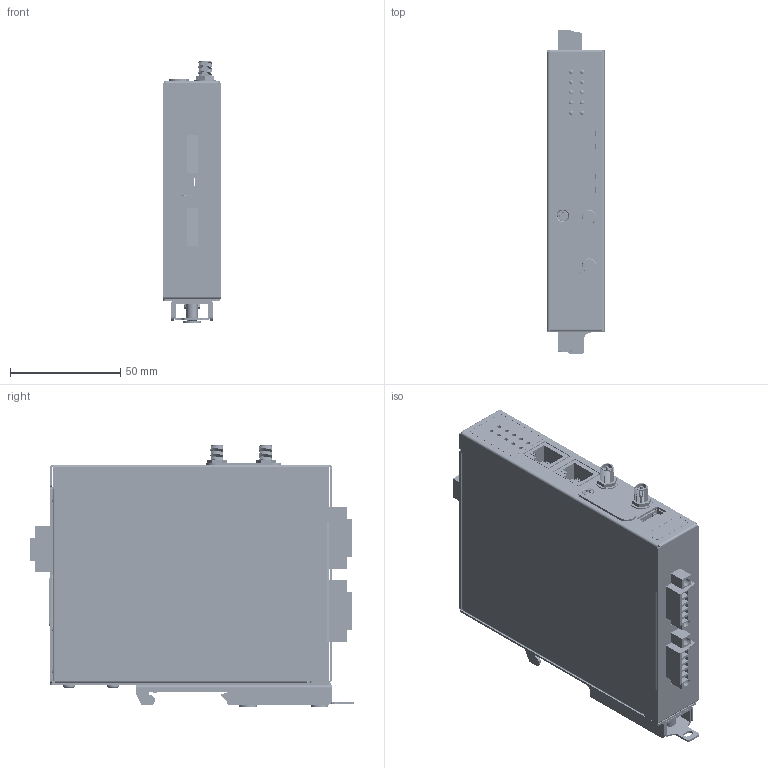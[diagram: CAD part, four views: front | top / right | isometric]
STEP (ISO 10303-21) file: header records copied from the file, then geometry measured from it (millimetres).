
FILE_DESCRIPTION((''),'2;1');
FILE_NAME('00-VPN_CLOUD_GATEWAY_ASM','2019-07-09T11:35:08',('ChrisYC_Huang'),('PTC'),'CREO PARAMETRIC BY PTC INC, 2018020','CREO PARAMETRIC BY PTC INC, 2018020','');
FILE_SCHEMA(('AUTOMOTIVE_DESIGN { 1 0 10303 214 1 1 1 1 }'));
Products named in the file (286): 1126005081200_RJ45_E5TAB_8P8C; 1126010004000_USBX1_UR-TYPEA; 1106620102211_2LED; 1111210501210-ECH350RM_5P; 1111000000800_ECH350RM_3P; 1126101041211_HR_DIP90M_1X4; 1109000040700; 1126801021113-MINI_PCIE-AS0B22X; PCB-MINIPCIE; 1402310010112-SMD_NUT-M2P5X4P4; STP_900_TUTTO; 1005_R_TUTTO; 3216-16_TAN-A_TUTTO; STP_400_TUTTO; 3216_C_TUTTO; BLM21_TUTTO; EXTRUDE1_4_; FILLET5; FILLET3; EXTRUDE4; EXTRUDE1_2_; CUT-EXTRUDE1; UFL_TUTTO_ASM; 1005_C_TUTTO; ESTRUSIONE-ESTRUSIONE1_4_; ESTRUSIONE-ESTRUSIONE1_6_; ESTRUSIONE-ESTRUSIONE1_12_; ESTRUSIONE-ESTRUSIONE1_1_; ESTRUSIONE-ESTRUSIONE1_10_; ESTRUSIONE-ESTRUSIONE1_15_; ESTRUSIONE-ESTRUSIONE1_11_; ESTRUSIONE-ESTRUSIONE1_5_; ESTRUSIONE-ESTRUSIONE1_7_; ESTRUSIONE-ESTRUSIONE1_16_; ESTRUSIONE-ESTRUSIONE1_26_; ESTRUSIONE-ESTRUSIONE1_3_; ESTRUSIONE-ESTRUSIONE1_22_; ESTRUSIONE-ESTRUSIONE1_13_; ESTRUSIONE-ESTRUSIONE1_25_; ESTRUSIONE-ESTRUSIONE1_24_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
Assembly tree (377 placements, depth 8):
  00-VPN_CLOUD_GATEWAY_ASM
    01-PCB-VPN-C-GATEWAY_ASM
      1126005081200_RJ45_E5TAB_8P8C  x2
      1126010004000_USBX1_UR-TYPEA
      1106620102211_2LED  x5
      1111210501210-ECH350RM_5P  x2
      1111000000800_ECH350RM_3P
      1126101041211_HR_DIP90M_1X4
      1109000040700  x2
      1126801021113-MINI_PCIE-H4P9_ASM
        1126801021113-MINI_PCIE-AS0B22X
        PCB-MINIPCIE
        1402310010112-SMD_NUT-M2P5X4P4  x2
        MPCI_ASM
          MPCI_TUTTO_ASM
            STP_900_TUTTO  x21
            1005_R_TUTTO  x19
            3216-16_TAN-A_TUTTO  x4
            STP_400_TUTTO  x6
            3216_C_TUTTO
            BLM21_TUTTO
            UFL_TUTTO_ASM  x2
              EXTRUDE1_4_
              FILLET5
              FILLET3
              EXTRUDE4
              EXTRUDE1_2_
              CUT-EXTRUDE1
            1005_C_TUTTO  x3
            PCIE_CONN_TOP_TUTTO_ASM  x2
              ESTRUSIONE-ESTRUSIONE1_4_
              ESTRUSIONE-ESTRUSIONE1_6_
              ESTRUSIONE-ESTRUSIONE1_12_
              ESTRUSIONE-ESTRUSIONE1_1_
              ESTRUSIONE-ESTRUSIONE1_10_
              ESTRUSIONE-ESTRUSIONE1_15_
              ESTRUSIONE-ESTRUSIONE1_11_
              ESTRUSIONE-ESTRUSIONE1_5_
              ESTRUSIONE-ESTRUSIONE1_7_
              ESTRUSIONE-ESTRUSIONE1_16_
              ESTRUSIONE-ESTRUSIONE1_26_
              ESTRUSIONE-ESTRUSIONE1_3_
              ESTRUSIONE-ESTRUSIONE1_22_
              ESTRUSIONE-ESTRUSIONE1_13_
              ESTRUSIONE-ESTRUSIONE1_25_
              ESTRUSIONE-ESTRUSIONE1_24_
              ESTRUSIONE-ESTRUSIONE1_14_
              ESTRUSIONE-ESTRUSIONE1_2-112427
              ESTRUSIONE-ESTRUSIONE1_21_
              ESTRUSIONE-ESTRUSIONE1_8_
              ESTRUSIONE-ESTRUSIONE1_23_
              ESTRUSIONE-ESTRUSIONE1_19_
              ESTRUSIONE-ESTRUSIONE1_17_
              ESTRUSIONE-ESTRUSIONE1_20_
              ESTRUSIONE-ESTRUSIONE1_9_
              ESTRUSIONE-ESTRUSIONE1_18_
            STDK_SPM4020_TUTTO_ASM
              RIVOLUZIONE6
              RIVOLUZIONE5
              ESTRUSIONE-ESTRUSIONE3
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Bounding box: 26 x 147 x 118.8 mm (x, y, z)
Volume: 117844.7 mm3; surface area: 201174.7 mm2
Topology: 423 solids, 432 shells, 8617 faces, 21376 edges, 13997 vertices
Faces by surface type: plane 5484, cylinder 1802, extrusion 578, bspline 377, torus 177, cone 145, sphere 48, revolution 6
Entity records: 293839 total; most frequent: CARTESIAN_POINT 68214, ORIENTED_EDGE 30534, DIRECTION 29225, EDGE_CURVE 15275, PRESENTATION_STYLE_ASSIGNMENT 15083, STYLED_ITEM 12000, VECTOR 11875, CURVE_STYLE 11532
